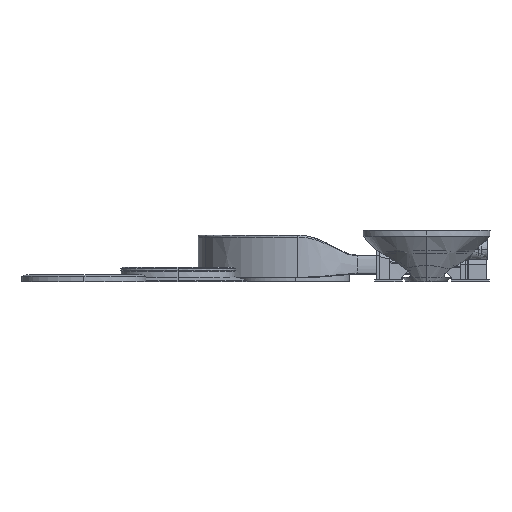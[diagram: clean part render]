
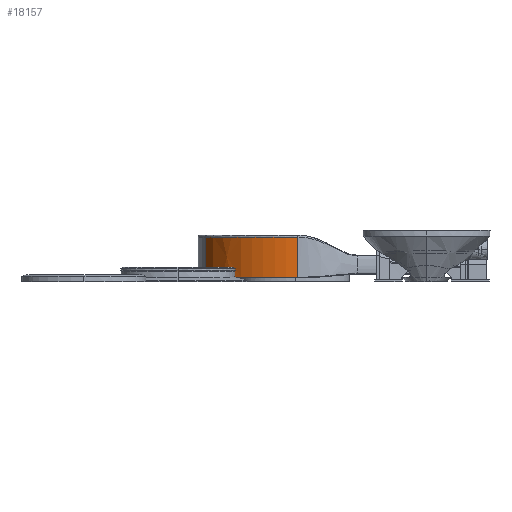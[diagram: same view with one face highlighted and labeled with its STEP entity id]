
A CAD part, left-side view. The second image highlights one B-rep face of the part: STEP entity #18157.
In plain terms, the highlighted free-form (B-spline) face has degree [2, 3] with [3, 8] control points.
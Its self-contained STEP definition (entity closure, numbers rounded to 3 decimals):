
#5815=ORIENTED_EDGE('trim curve',*,*,#10639,.F.);
#5816=ORIENTED_EDGE('trim curve',*,*,#10640,.F.);
#5817=ORIENTED_EDGE('trim curve',*,*,#10587,.T.);
#5818=ORIENTED_EDGE('trim curve',*,*,#10483,.F.);
#7678=VERTEX_POINT('Trimming Point',#51337);
#7679=VERTEX_POINT('Trimming Point',#51344);
#7740=VERTEX_POINT('Trimming Point',#52487);
#7765=VERTEX_POINT('Trimming Point',#53004);
#10483=EDGE_CURVE('Edge Curve',#7678,#7679,#13377,.T.);
#10587=EDGE_CURVE('Edge Curve',#7740,#7679,#13481,.T.);
#10639=EDGE_CURVE('Edge Curve',#7765,#7678,#13533,.T.);
#10640=EDGE_CURVE('Edge Curve',#7740,#7765,#13534,.T.);
#13377=(
BOUNDED_CURVE()
B_SPLINE_CURVE(3,(#51338,#51339,#51340,#51341,#51342,#51343,#51344),.UNSPECIFIED.,
 .U.,.U.)
B_SPLINE_CURVE_WITH_KNOTS((4,1,1,1,4),(0.,0.167,0.5,0.833,
1.),.UNSPECIFIED.)
CURVE()
GEOMETRIC_REPRESENTATION_ITEM()
RATIONAL_B_SPLINE_CURVE((1.,1.,1.,1.,1.,1.,1.))
REPRESENTATION_ITEM('node#6547')
);
#13481=(
BOUNDED_CURVE()
B_SPLINE_CURVE(3,(#52487,#52488,#52489,#52490,#52491),.UNSPECIFIED.,.U.,
 .U.)
B_SPLINE_CURVE_WITH_KNOTS((4,1,4),(0.,0.333,1.),.UNSPECIFIED.)
CURVE()
GEOMETRIC_REPRESENTATION_ITEM()
RATIONAL_B_SPLINE_CURVE((1.,1.,1.,1.,1.))
REPRESENTATION_ITEM('node#6547')
);
#13533=(
BOUNDED_CURVE()
B_SPLINE_CURVE(3,(#53004,#53005,#53006,#53007,#53008),.UNSPECIFIED.,.U.,
 .U.)
B_SPLINE_CURVE_WITH_KNOTS((4,1,4),(0.,0.5,1.5),.UNSPECIFIED.)
CURVE()
GEOMETRIC_REPRESENTATION_ITEM()
RATIONAL_B_SPLINE_CURVE((1.,1.,1.,1.,1.))
REPRESENTATION_ITEM('node#6547')
);
#13534=(
BOUNDED_CURVE()
B_SPLINE_CURVE(2,(#53009,#53010,#53011),.UNSPECIFIED.,.U.,.U.)
B_SPLINE_CURVE_WITH_KNOTS((3,3),(0.,2.956),.UNSPECIFIED.)
CURVE()
GEOMETRIC_REPRESENTATION_ITEM()
RATIONAL_B_SPLINE_CURVE((1.,1.,1.))
REPRESENTATION_ITEM('node#6547')
);
#14754=EDGE_LOOP('trim boundary',(#5815,#5816,#5817,#5818));
#15889=FACE_OUTER_BOUND('Boundary Edges',#14754,.T.);
#17023=(
BOUNDED_SURFACE()
B_SPLINE_SURFACE(2,3,((#52980,#52981,#52982,#52983,#52984,#52985,#52986,
#52987),(#52988,#52989,#52990,#52991,#52992,#52993,#52994,#52995),(#52996,
#52997,#52998,#52999,#53000,#53001,#53002,#53003)),.UNSPECIFIED.,.U.,.U.,
 .U.)
B_SPLINE_SURFACE_WITH_KNOTS((3,3),(4,1,1,1,1,4),(0.,1.456),(0.,
1.,2.,3.,4.,5.),.UNSPECIFIED.)
GEOMETRIC_REPRESENTATION_ITEM()
RATIONAL_B_SPLINE_SURFACE(((1.,1.,1.,1.,1.,1.,1.,1.),(1.,1.,1.,1.,1.,1.,
1.,1.),(1.,1.,1.,1.,1.,1.,1.,1.)))
REPRESENTATION_ITEM('trim region')
SURFACE()
);
#18157=ADVANCED_FACE('trim region',(#15889),#17023,.T.);
#51337=CARTESIAN_POINT('CVs',(-71.535,147.534,32.748));
#51338=CARTESIAN_POINT('CVs',(-71.535,147.534,32.748));
#51339=CARTESIAN_POINT('CVs',(-71.535,147.534,31.105));
#51340=CARTESIAN_POINT('CVs',(-71.535,147.534,26.179));
#51341=CARTESIAN_POINT('CVs',(-71.535,147.534,17.968));
#51342=CARTESIAN_POINT('CVs',(-71.535,147.534,9.757));
#51343=CARTESIAN_POINT('CVs',(-71.535,147.534,4.831));
#51344=CARTESIAN_POINT('CVs',(-71.535,147.534,3.188));
#52487=CARTESIAN_POINT('CVs',(-27.426,215.595,3.188));
#52488=CARTESIAN_POINT('CVs',(-35.908,212.013,3.188));
#52489=CARTESIAN_POINT('CVs',(-59.441,196.063,3.188));
#52490=CARTESIAN_POINT('CVs',(-71.208,167.049,3.188));
#52491=CARTESIAN_POINT('CVs',(-71.535,147.534,3.188));
#52980=CARTESIAN_POINT('CVs',(67.758,144.959,32.748));
#52981=CARTESIAN_POINT('CVs',(68.047,164.382,32.748));
#52982=CARTESIAN_POINT('CVs',(53.517,203.694,32.748));
#52983=CARTESIAN_POINT('CVs',(-0.607,228.925,32.748));
#52984=CARTESIAN_POINT('CVs',(-55.519,205.734,32.748));
#52985=CARTESIAN_POINT('CVs',(-79.053,147.707,32.748));
#52986=CARTESIAN_POINT('CVs',(-64.672,108.332,32.748));
#52987=CARTESIAN_POINT('CVs',(-52.105,94.339,32.748));
#52988=CARTESIAN_POINT('CVs',(67.758,144.959,17.968));
#52989=CARTESIAN_POINT('CVs',(68.047,164.382,17.968));
#52990=CARTESIAN_POINT('CVs',(53.517,203.694,17.968));
#52991=CARTESIAN_POINT('CVs',(-0.607,228.925,17.968));
#52992=CARTESIAN_POINT('CVs',(-55.519,205.734,17.968));
#52993=CARTESIAN_POINT('CVs',(-79.053,147.707,17.968));
#52994=CARTESIAN_POINT('CVs',(-64.672,108.332,17.968));
#52995=CARTESIAN_POINT('CVs',(-52.105,94.339,17.968));
#52996=CARTESIAN_POINT('CVs',(67.758,144.959,3.188));
#52997=CARTESIAN_POINT('CVs',(68.047,164.382,3.188));
#52998=CARTESIAN_POINT('CVs',(53.517,203.694,3.188));
#52999=CARTESIAN_POINT('CVs',(-0.607,228.925,3.188));
#53000=CARTESIAN_POINT('CVs',(-55.519,205.734,3.188));
#53001=CARTESIAN_POINT('CVs',(-79.053,147.707,3.188));
#53002=CARTESIAN_POINT('CVs',(-64.672,108.332,3.188));
#53003=CARTESIAN_POINT('CVs',(-52.105,94.339,3.188));
#53004=CARTESIAN_POINT('CVs',(-27.426,215.595,32.748));
#53005=CARTESIAN_POINT('CVs',(-35.908,212.013,32.748));
#53006=CARTESIAN_POINT('CVs',(-59.441,196.063,32.748));
#53007=CARTESIAN_POINT('CVs',(-71.208,167.049,32.748));
#53008=CARTESIAN_POINT('CVs',(-71.535,147.534,32.748));
#53009=CARTESIAN_POINT('CVs',(-27.426,215.595,3.188));
#53010=CARTESIAN_POINT('CVs',(-27.426,215.595,17.968));
#53011=CARTESIAN_POINT('CVs',(-27.426,215.595,32.748));
